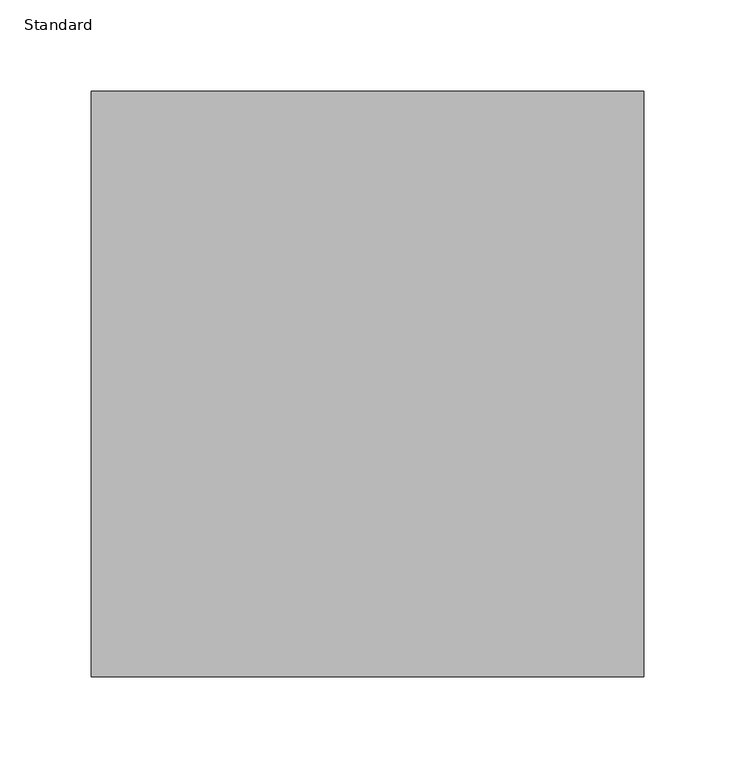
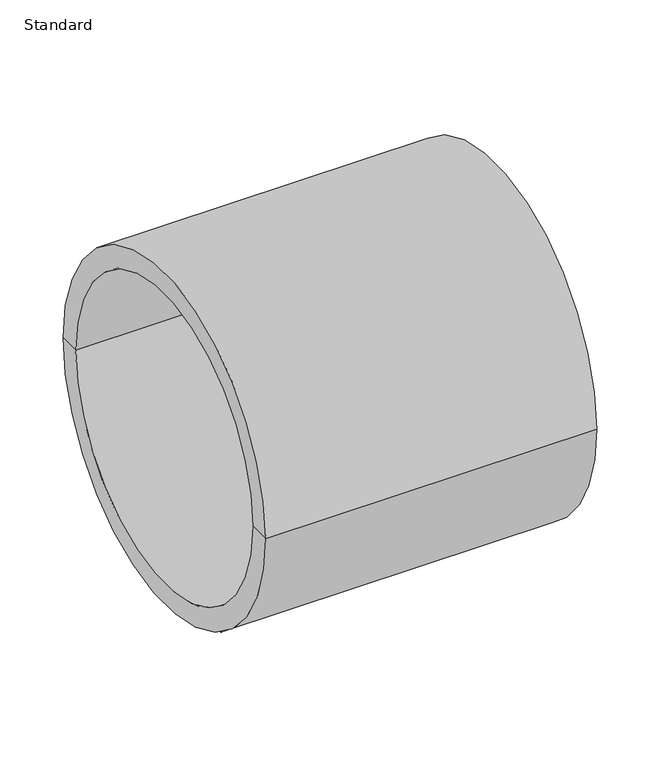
"""IFC4 building model written with IfcOpenShell, lengths in millimetres: pipe fitting geometry, Durapipe_PipeFitting_PVC_Socket : Standard."""

from ifc_helpers import new_model, si_unit, frame, origin, place, context, project, spatial, polyline, circle_curve, source, transform, mapped, element, save
from ifc_brep_helpers import plane_surface, cylinder_surface, revolved_surface, advanced_brep


def standard_e8098f89(model_context):
    return source(origin(), model_context, "Body", "AdvancedBrep", [
        advanced_brep(
        [(-151.0, -160.0, 0.0), (-151.0, 160.0, 0.0), (151.0, 160.0, 0.0), (151.0, -160.0, 0.0), (-151.0, -140.0, 0.0), (-151.0, 140.0, 0.0), (5.0, -130.0, 0.0), (5.0, 130.0, 0.0), (-5.0, 130.0, 0.0), (-5.0, -130.0, 0.0), (151.0, 140.0, 0.0), (151.0, -140.0, 0.0), (-5.0, -140.0, 0.0), (-5.0, 140.0, 0.0), (5.0, -140.0, 0.0), (5.0, 140.0, 0.0)],
        [
            (0, 1, circle_curve(frame((-151.0, 0.0, 0.0), z_axis=(1.0, 0.0, 0.0), x_axis=(0.0, 1.0, 0.0)), 160.0)),
            (1, 2),
            (2, 3, circle_curve(frame((151.0, 0.0, 0.0), z_axis=(-1.0, 0.0, 0.0), x_axis=(0.0, 1.0, 0.0)), 160.0)),
            (3, 0),
            (1, 0, circle_curve(frame((-151.0, 0.0, 0.0), z_axis=(1.0, 0.0, 0.0), x_axis=(0.0, 1.0, 0.0)), 160.0)),
            (3, 2, circle_curve(frame((151.0, 0.0, 0.0), z_axis=(-1.0, 0.0, 0.0), x_axis=(0.0, 1.0, 0.0)), 160.0)),
            (4, 5, circle_curve(frame((-151.0, 0.0, 0.0), z_axis=(1.0, 0.0, 0.0), x_axis=(0.0, 1.0, 0.0)), 140.0)),
            (5, 1),
            (0, 4),
            (5, 4, circle_curve(frame((-151.0, 0.0, 0.0), z_axis=(1.0, 0.0, 0.0), x_axis=(0.0, 1.0, 0.0)), 140.0)),
            (6, 7, circle_curve(frame((5.0, 0.0, 0.0), z_axis=(1.0, 0.0, 0.0), x_axis=(0.0, 1.0, 0.0)), 130.0)),
            (7, 8),
            (8, 9, circle_curve(frame((-5.0, 0.0, 0.0), z_axis=(-1.0, 0.0, 0.0), x_axis=(0.0, 1.0, 0.0)), 130.0)),
            (9, 6),
            (7, 6, circle_curve(frame((5.0, 0.0, 0.0), z_axis=(1.0, 0.0, 0.0), x_axis=(0.0, 1.0, 0.0)), 130.0)),
            (9, 8, circle_curve(frame((-5.0, 0.0, 0.0), z_axis=(-1.0, 0.0, 0.0), x_axis=(0.0, 1.0, 0.0)), 130.0)),
            (2, 10),
            (10, 11, circle_curve(frame((151.0, 0.0, 0.0), z_axis=(-1.0, 0.0, 0.0), x_axis=(0.0, 1.0, 0.0)), 140.0)),
            (11, 3),
            (11, 10, circle_curve(frame((151.0, 0.0, 0.0), z_axis=(-1.0, 0.0, 0.0), x_axis=(0.0, 1.0, 0.0)), 140.0)),
            (12, 13, circle_curve(frame((-5.0, 0.0, 0.0), z_axis=(1.0, 0.0, 0.0), x_axis=(0.0, 1.0, 0.0)), 140.0)),
            (13, 5),
            (4, 12),
            (13, 12, circle_curve(frame((-5.0, 0.0, 0.0), z_axis=(1.0, 0.0, 0.0), x_axis=(0.0, 1.0, 0.0)), 140.0)),
            (8, 13),
            (12, 9),
            (14, 15, circle_curve(frame((5.0, 0.0, 0.0), z_axis=(1.0, 0.0, 0.0), x_axis=(0.0, 1.0, 0.0)), 140.0)),
            (15, 7),
            (6, 14),
            (15, 14, circle_curve(frame((5.0, 0.0, 0.0), z_axis=(1.0, 0.0, 0.0), x_axis=(0.0, 1.0, 0.0)), 140.0)),
            (10, 15),
            (14, 11),
        ],
        [
            cylinder_surface(frame((-151.0, 0.0, 0.0), z_axis=(-1.0, 0.0, 0.0), x_axis=(0.0, 1.0, 0.0)), 160.0),
            plane_surface(frame((-151.0, 0.0, 0.0), z_axis=(-1.0, 0.0, 0.0), x_axis=(0.0, 1.0, 0.0))),
            revolved_surface(polyline([(-5.0, 130.0, 0.0), (5.0, 130.0, 0.0)]), (-151.0, 0.0, 0.0), (-1.0, 0.0, 0.0)),
            plane_surface(frame((151.0, 0.0, 0.0), z_axis=(1.0, 0.0, 0.0), x_axis=(0.0, 1.0, 0.0))),
            revolved_surface(polyline([(-151.0, 140.0, 0.0), (-5.0, 140.0, 0.0)]), (-151.0, 0.0, 0.0), (-1.0, 0.0, 0.0)),
            plane_surface(frame((-5.0, 0.0, 0.0), z_axis=(-1.0, 0.0, 0.0), x_axis=(0.0, 1.0, 0.0))),
            plane_surface(frame((5.0, 0.0, 0.0), z_axis=(1.0, 0.0, 0.0), x_axis=(0.0, 1.0, 0.0))),
            revolved_surface(polyline([(5.0, 140.0, 0.0), (151.0, 140.0, 0.0)]), (-151.0, 0.0, 0.0), (-1.0, 0.0, 0.0)),
        ],
        [
            (0, [[1, 2, 3, 4]]),
            (0, [[5, -4, 6, -2]]),
            (1, [[7, 8, -1, 9]]),
            (1, [[10, -9, -5, -8]]),
            (2, [[11, 12, 13, 14]]),
            (2, [[15, -14, 16, -12]]),
            (3, [[-3, 17, 18, 19]]),
            (3, [[-6, -19, 20, -17]]),
            (4, [[21, 22, -7, 23]]),
            (4, [[24, -23, -10, -22]]),
            (5, [[-13, 25, -21, 26]]),
            (5, [[-16, -26, -24, -25]]),
            (6, [[27, 28, -11, 29]]),
            (6, [[30, -29, -15, -28]]),
            (7, [[-18, 31, -27, 32]]),
            (7, [[-20, -32, -30, -31]]),
        ],
    ),
    ])


if __name__ == "__main__":
    model = new_model("IFC4")
    model_context = context("Model", 3, world=origin())
    ifc_project = project(units=[si_unit("LENGTHUNIT", "METRE", prefix="MILLI")], contexts=[model_context])
    site = spatial("IfcSite", under=ifc_project)
    building = spatial("IfcBuilding", under=site)
    placement = place(None, origin())
    standard_shape = standard_e8098f89(model_context)
    element("IfcPipeFitting", 1, ObjectType="Durapipe_PipeFitting_PVC_Socket : Standard", at=placement, inside=building, context=model_context, shape_type="MappedRepresentation", body=[
        mapped(standard_shape, transform((0.0, 0.0, 0.0), x_axis=(1.0, 0.0, 0.0), y_axis=(0.0, 1.0, 0.0), z_axis=(0.0, 0.0, 1.0))),
    ])
    save(model, "model.ifc")
